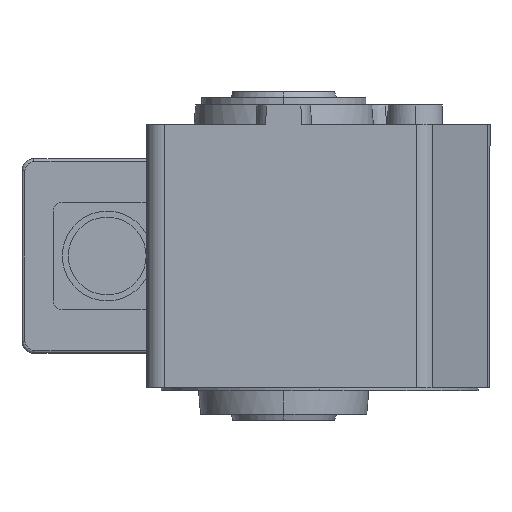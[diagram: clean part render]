
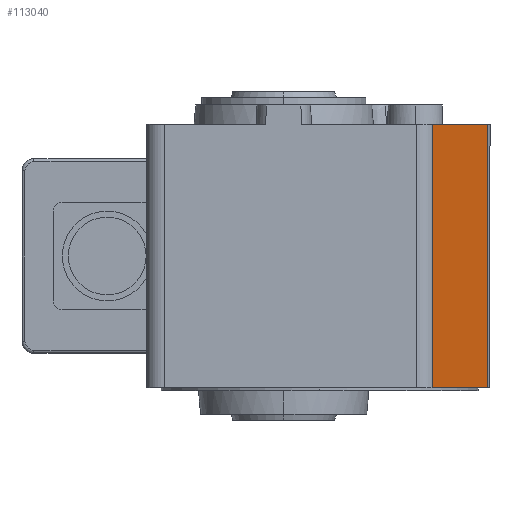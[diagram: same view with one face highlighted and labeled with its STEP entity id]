
A CAD part, left-side view. The second image highlights one B-rep face of the part: STEP entity #113040.
In plain terms, the highlighted planar face has unit normal (-0.5, -0.866, 0) as drawn and (0, -0.866, 0.5) by its records, which use the part's own axes.
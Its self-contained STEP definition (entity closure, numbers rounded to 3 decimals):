
#112650=CARTESIAN_POINT('',(-80.658,-368.278,
217.812));
#112660=DIRECTION('',(0.,0.866,-0.5));
#112670=DIRECTION('',(0.,0.5,0.866));
#112680=AXIS2_PLACEMENT_3D('',#112650,#112660,#112670);
#112690=PLANE('',#112680);
#112700=CARTESIAN_POINT('',(-177.458,-342.478,262.5));
#112710=DIRECTION('',(0.,0.5,0.866));
#112720=VECTOR('',#112710,1.);
#112730=LINE('',#112700,#112720);
#112740=CARTESIAN_POINT('',(-177.458,-362.674,
227.519));
#112750=VERTEX_POINT('',#112740);
#112760=CARTESIAN_POINT('',(-177.458,-344.21,259.5));
#112770=VERTEX_POINT('',#112760);
#112780=EDGE_CURVE('',#112750,#112770,#112730,.T.);
#112790=ORIENTED_EDGE('',*,*,#112780,.F.);
#112800=CARTESIAN_POINT('',(-172.685,-344.21,259.5));
#112810=DIRECTION('',(-1.,0.,0.));
#112820=VECTOR('',#112810,1.);
#112830=LINE('',#112800,#112820);
#112840=CARTESIAN_POINT('',(-89.458,-344.21,259.5));
#112850=VERTEX_POINT('',#112840);
#112860=EDGE_CURVE('',#112850,#112770,#112830,.T.);
#112870=ORIENTED_EDGE('',*,*,#112860,.T.);
#112880=CARTESIAN_POINT('',(-89.458,-342.478,262.5));
#112890=DIRECTION('',(0.,-0.5,-0.866));
#112900=VECTOR('',#112890,1.);
#112910=LINE('',#112880,#112900);
#112920=CARTESIAN_POINT('',(-89.458,-362.674,
227.519));
#112930=VERTEX_POINT('',#112920);
#112940=EDGE_CURVE('',#112850,#112930,#112910,.T.);
#112950=ORIENTED_EDGE('',*,*,#112940,.F.);
#112960=CARTESIAN_POINT('',(-172.685,-362.674,
227.519));
#112970=DIRECTION('',(1.,0.,0.));
#112980=VECTOR('',#112970,1.);
#112990=LINE('',#112960,#112980);
#113000=EDGE_CURVE('',#112750,#112930,#112990,.T.);
#113010=ORIENTED_EDGE('',*,*,#113000,.T.);
#113020=EDGE_LOOP('',(#113010,#112950,#112870,#112790));
#113030=FACE_OUTER_BOUND('',#113020,.T.);
#113040=ADVANCED_FACE('',(#113030),#112690,.F.);
